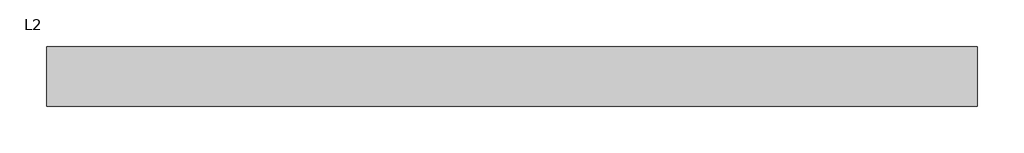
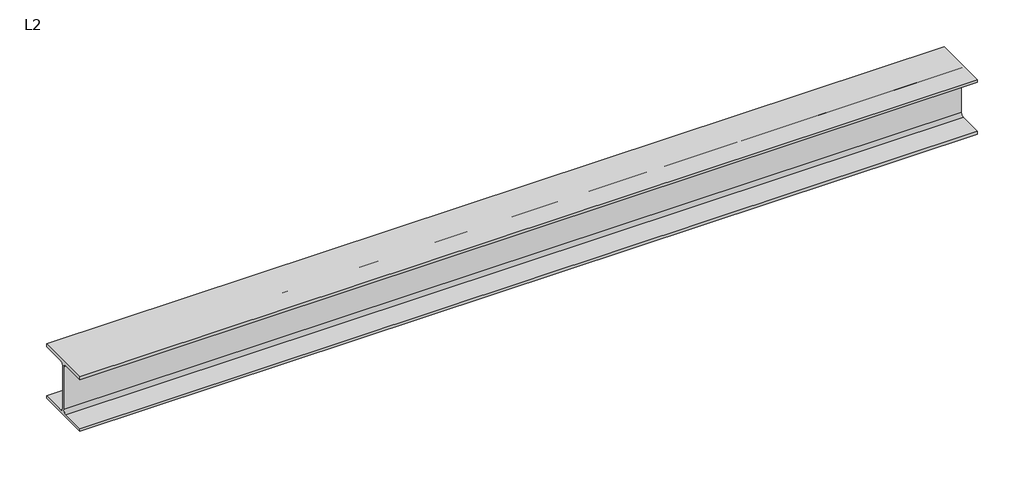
# One storey: 1 beam.
"""IFC4 building model written with IfcOpenShell, lengths in millimetres."""

from ifc_helpers import new_model, si_unit, origin, place, context, project, spatial, transform, mapped, element, save
from components import beam_6505a9ed

model = new_model("IFC4")

# Units and contexts
model_context = context("Model", 3, world=origin())
ifc_project = project(units=[si_unit("LENGTHUNIT", "METRE", prefix="MILLI")], contexts=[model_context])

# Site, building, storey
site = spatial("IfcSite", under=ifc_project)
building = spatial("IfcBuilding", under=site)
storey = spatial("IfcBuildingStorey", under=building, Name="L2", Elevation=5000.0)

# Beam
placement = place(None, origin())
beam_shape = beam_6505a9ed(model_context)
element("IfcBeam", 1, ObjectType="M_WF-Wide Flange-Framing : WF - 300x300x10x15 mm. - 94 kg./m.", at=placement, inside=storey, context=model_context, shape_type="MappedRepresentation", body=[
    mapped(beam_shape, transform((1827.0, 3716.0, 4850.0), x_axis=(1.0, 0.0, 0.0), y_axis=(0.0, 1.0, 0.0), z_axis=(0.0, 0.0, 1.0))),
])

save(model, "model.ifc")
